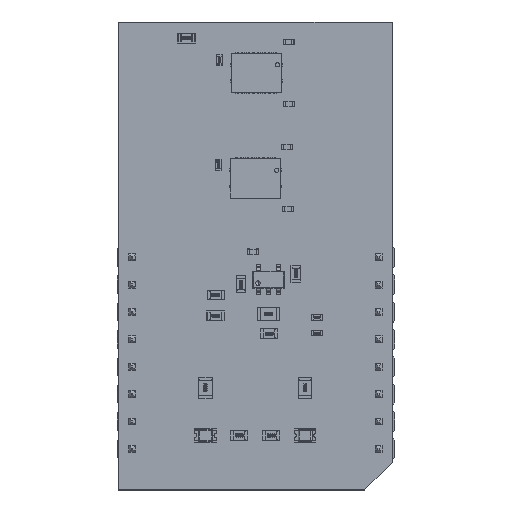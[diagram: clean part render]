
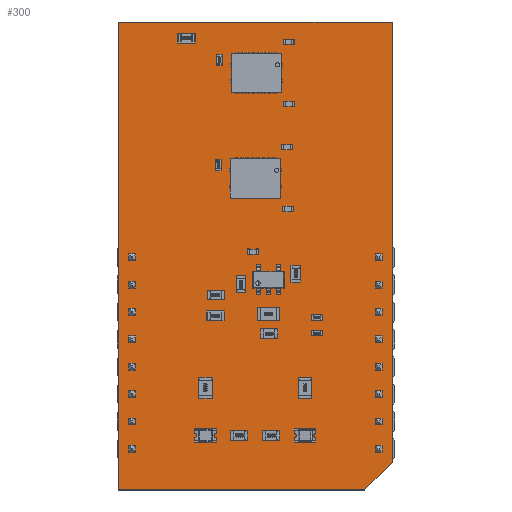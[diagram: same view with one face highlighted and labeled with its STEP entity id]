
A CAD part, top view. The second image highlights one B-rep face of the part: STEP entity #300.
In plain terms, the highlighted planar face has unit normal (0, 0, 1).
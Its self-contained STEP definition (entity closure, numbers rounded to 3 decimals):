
#139 = VERTEX_POINT('',#140);
#140 = CARTESIAN_POINT('',(-1.27,-3.81,0.));
#146 = EDGE_CURVE('',#139,#147,#149,.T.);
#147 = VERTEX_POINT('',#148);
#148 = CARTESIAN_POINT('',(-1.27,39.599,0.));
#149 = LINE('',#150,#151);
#150 = CARTESIAN_POINT('',(-1.27,-3.81,0.));
#151 = VECTOR('',#152,1.);
#152 = DIRECTION('',(0.,1.,0.));
#177 = EDGE_CURVE('',#147,#178,#180,.T.);
#178 = VERTEX_POINT('',#179);
#179 = CARTESIAN_POINT('',(24.13,39.599,0.));
#180 = LINE('',#181,#182);
#181 = CARTESIAN_POINT('',(-1.27,39.599,0.));
#182 = VECTOR('',#183,1.);
#183 = DIRECTION('',(1.,0.,0.));
#208 = EDGE_CURVE('',#178,#209,#211,.T.);
#209 = VERTEX_POINT('',#210);
#210 = CARTESIAN_POINT('',(24.13,-1.27,0.));
#211 = LINE('',#212,#213);
#212 = CARTESIAN_POINT('',(24.13,39.599,0.));
#213 = VECTOR('',#214,1.);
#214 = DIRECTION('',(0.,-1.,0.));
#239 = EDGE_CURVE('',#209,#240,#242,.T.);
#240 = VERTEX_POINT('',#241);
#241 = CARTESIAN_POINT('',(21.59,-3.81,0.));
#242 = LINE('',#243,#244);
#243 = CARTESIAN_POINT('',(24.13,-1.27,0.));
#244 = VECTOR('',#245,1.);
#245 = DIRECTION('',(-0.707,-0.707,0.));
#270 = EDGE_CURVE('',#240,#139,#271,.T.);
#271 = LINE('',#272,#273);
#272 = CARTESIAN_POINT('',(21.59,-3.81,0.));
#273 = VECTOR('',#274,1.);
#274 = DIRECTION('',(-1.,0.,0.));
#300 = ADVANCED_FACE('',(#301),#308,.T.);
#301 = FACE_BOUND('',#302,.F.);
#302 = EDGE_LOOP('',(#303,#304,#305,#306,#307));
#303 = ORIENTED_EDGE('',*,*,#146,.T.);
#304 = ORIENTED_EDGE('',*,*,#177,.T.);
#305 = ORIENTED_EDGE('',*,*,#208,.T.);
#306 = ORIENTED_EDGE('',*,*,#239,.T.);
#307 = ORIENTED_EDGE('',*,*,#270,.T.);
#308 = PLANE('',#309);
#309 = AXIS2_PLACEMENT_3D('',#310,#311,#312);
#310 = CARTESIAN_POINT('',(-1.27,-3.81,0.));
#311 = DIRECTION('',(0.,0.,1.));
#312 = DIRECTION('',(1.,0.,0.));
